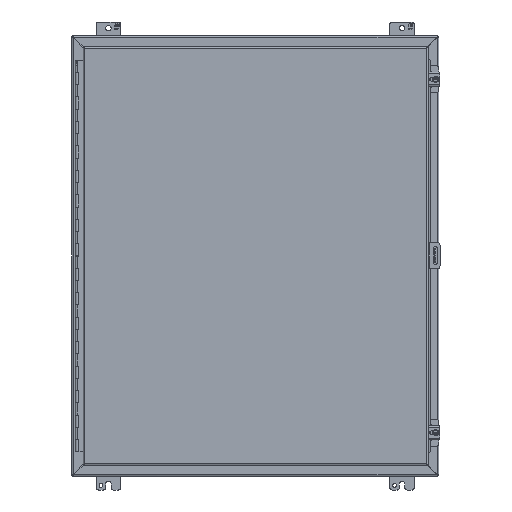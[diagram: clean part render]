
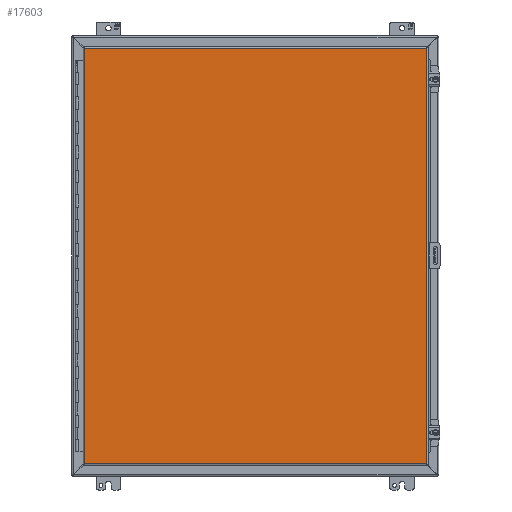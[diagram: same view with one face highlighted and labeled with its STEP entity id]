
A CAD part, front view. The second image highlights one B-rep face of the part: STEP entity #17603.
In plain terms, the highlighted planar face has unit normal (0, -1, 0).
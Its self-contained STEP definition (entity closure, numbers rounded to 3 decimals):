
#1111=LINE('',#25372,#2803);
#1112=LINE('',#25375,#2804);
#1113=LINE('',#25377,#2805);
#1114=LINE('',#25379,#2806);
#2803=VECTOR('',#20642,1000.);
#2804=VECTOR('',#20643,1000.);
#2805=VECTOR('',#20644,1000.);
#2806=VECTOR('',#20645,1000.);
#5357=ORIENTED_EDGE('',*,*,#10191,.T.);
#5358=ORIENTED_EDGE('',*,*,#10192,.T.);
#5359=ORIENTED_EDGE('',*,*,#10193,.T.);
#5360=ORIENTED_EDGE('',*,*,#10194,.T.);
#10191=EDGE_CURVE('',#12658,#12659,#1111,.T.);
#10192=EDGE_CURVE('',#12659,#12660,#1112,.T.);
#10193=EDGE_CURVE('',#12660,#12661,#1113,.T.);
#10194=EDGE_CURVE('',#12661,#12658,#1114,.T.);
#12658=VERTEX_POINT('',#25373);
#12659=VERTEX_POINT('',#25374);
#12660=VERTEX_POINT('',#25376);
#12661=VERTEX_POINT('',#25378);
#14714=EDGE_LOOP('',(#5357,#5358,#5359,#5360));
#15840=FACE_BOUND('',#14714,.T.);
#16901=PLANE('',#18806);
#17603=ADVANCED_FACE('',(#15840),#16901,.T.);
#18806=AXIS2_PLACEMENT_3D('',#25371,#20640,#20641);
#20640=DIRECTION('',(0.,-1.,0.));
#20641=DIRECTION('',(0.,0.,-1.));
#20642=DIRECTION('',(0.,0.,-1.));
#20643=DIRECTION('',(1.,0.,0.));
#20644=DIRECTION('',(0.,0.,1.));
#20645=DIRECTION('',(-1.,0.,0.));
#25371=CARTESIAN_POINT('',(-355.244,0.,-431.66));
#25372=CARTESIAN_POINT('',(-355.244,0.,431.66));
#25373=CARTESIAN_POINT('',(-355.244,0.,431.66));
#25374=CARTESIAN_POINT('',(-355.244,0.,-431.66));
#25375=CARTESIAN_POINT('',(-355.244,0.,-431.66));
#25376=CARTESIAN_POINT('',(355.244,0.,-431.66));
#25377=CARTESIAN_POINT('',(355.244,0.,-431.66));
#25378=CARTESIAN_POINT('',(355.244,0.,431.66));
#25379=CARTESIAN_POINT('',(355.244,0.,431.66));
